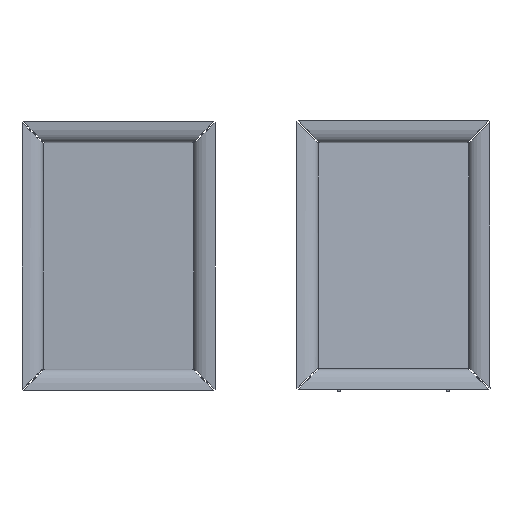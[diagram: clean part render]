
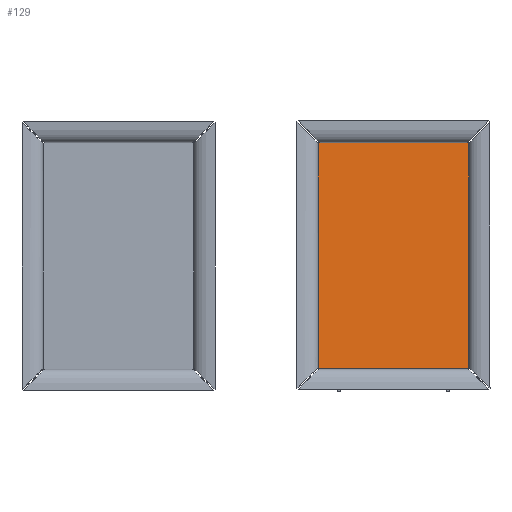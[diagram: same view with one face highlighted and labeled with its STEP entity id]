
A CAD part, front view. The second image highlights one B-rep face of the part: STEP entity #129.
In plain terms, the highlighted planar face has unit normal (0, -0.998, 0.07).
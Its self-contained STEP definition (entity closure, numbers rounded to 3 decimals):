
#129=ADVANCED_FACE('',(#316),#2795,.T.);
#316=FACE_OUTER_BOUND('',#505,.T.);
#505=EDGE_LOOP('',(#1004,#1005,#1006,#1007,#1008,#1009,#1010,#1011));
#1004=ORIENTED_EDGE('',*,*,#1701,.F.);
#1005=ORIENTED_EDGE('',*,*,#1694,.F.);
#1006=ORIENTED_EDGE('',*,*,#1700,.F.);
#1007=ORIENTED_EDGE('',*,*,#1693,.F.);
#1008=ORIENTED_EDGE('',*,*,#1699,.F.);
#1009=ORIENTED_EDGE('',*,*,#1685,.F.);
#1010=ORIENTED_EDGE('',*,*,#1687,.F.);
#1011=ORIENTED_EDGE('',*,*,#1695,.F.);
#1685=EDGE_CURVE('',#2494,#2507,#2126,.T.);
#1687=EDGE_CURVE('',#2495,#2494,#2128,.T.);
#1693=EDGE_CURVE('',#2502,#2501,#2134,.T.);
#1694=EDGE_CURVE('',#2504,#2503,#2135,.T.);
#1695=EDGE_CURVE('',#2505,#2495,#2136,.T.);
#1699=EDGE_CURVE('',#2507,#2502,#2140,.T.);
#1700=EDGE_CURVE('',#2501,#2504,#2141,.T.);
#1701=EDGE_CURVE('',#2503,#2505,#2142,.T.);
#2126=B_SPLINE_CURVE_WITH_KNOTS('',1,(#4420,#4421),.UNSPECIFIED.,.F.,.F.,
(2,2),(0.85,162.95),.UNSPECIFIED.);
#2128=B_SPLINE_CURVE_WITH_KNOTS('',1,(#4424,#4425),.UNSPECIFIED.,.F.,.F.,
(2,2),(-1.,0.),.UNSPECIFIED.);
#2134=B_SPLINE_CURVE_WITH_KNOTS('',1,(#4440,#4441),.UNSPECIFIED.,.F.,.F.,
(2,2),(0.85,107.95),.UNSPECIFIED.);
#2135=B_SPLINE_CURVE_WITH_KNOTS('',1,(#4442,#4443),.UNSPECIFIED.,.F.,.F.,
(2,2),(0.85,162.95),.UNSPECIFIED.);
#2136=B_SPLINE_CURVE_WITH_KNOTS('',1,(#4444,#4445),.UNSPECIFIED.,.F.,.F.,
(2,2),(0.85,107.95),.UNSPECIFIED.);
#2140=B_SPLINE_CURVE_WITH_KNOTS('',1,(#4452,#4453),.UNSPECIFIED.,.F.,.F.,
(2,2),(0.,1.),.UNSPECIFIED.);
#2141=B_SPLINE_CURVE_WITH_KNOTS('',1,(#4454,#4455),.UNSPECIFIED.,.F.,.F.,
(2,2),(0.,1.),.UNSPECIFIED.);
#2142=B_SPLINE_CURVE_WITH_KNOTS('',1,(#4456,#4457),.UNSPECIFIED.,.F.,.F.,
(2,2),(0.,1.),.UNSPECIFIED.);
#2494=VERTEX_POINT('',#4404);
#2495=VERTEX_POINT('',#4405);
#2501=VERTEX_POINT('',#4411);
#2502=VERTEX_POINT('',#4412);
#2503=VERTEX_POINT('',#4413);
#2504=VERTEX_POINT('',#4414);
#2505=VERTEX_POINT('',#4415);
#2507=VERTEX_POINT('',#4417);
#2795=PLANE('',#2977);
#2977=AXIS2_PLACEMENT_3D('',#4366,#3065,$);
#3065=DIRECTION('',(0.,-0.998,0.07));
#4366=CARTESIAN_POINT('',(1985.08,-193.677,148.441));
#4404=CARTESIAN_POINT('',(1985.08,-193.084,156.92));
#4405=CARTESIAN_POINT('',(1993.58,-193.677,148.441));
#4411=CARTESIAN_POINT('',(3064.58,-79.416,1782.451));
#4412=CARTESIAN_POINT('',(1993.58,-79.416,1782.451));
#4413=CARTESIAN_POINT('',(3073.08,-193.084,156.92));
#4414=CARTESIAN_POINT('',(3073.08,-80.009,1773.971));
#4415=CARTESIAN_POINT('',(3064.58,-193.677,148.441));
#4417=CARTESIAN_POINT('',(1985.08,-80.009,1773.971));
#4420=CARTESIAN_POINT('',(1985.08,-193.084,156.92));
#4421=CARTESIAN_POINT('',(1985.08,-80.009,1773.971));
#4424=CARTESIAN_POINT('',(1993.58,-193.677,148.441));
#4425=CARTESIAN_POINT('',(1985.08,-193.084,156.92));
#4440=CARTESIAN_POINT('',(1993.58,-79.416,1782.451));
#4441=CARTESIAN_POINT('',(3064.58,-79.416,1782.451));
#4442=CARTESIAN_POINT('',(3073.08,-80.009,1773.971));
#4443=CARTESIAN_POINT('',(3073.08,-193.084,156.92));
#4444=CARTESIAN_POINT('',(3064.58,-193.677,148.441));
#4445=CARTESIAN_POINT('',(1993.58,-193.677,148.441));
#4452=CARTESIAN_POINT('',(1985.08,-80.009,1773.971));
#4453=CARTESIAN_POINT('',(1993.58,-79.416,1782.451));
#4454=CARTESIAN_POINT('',(3064.58,-79.416,1782.451));
#4455=CARTESIAN_POINT('',(3073.08,-80.009,1773.971));
#4456=CARTESIAN_POINT('',(3073.08,-193.084,156.92));
#4457=CARTESIAN_POINT('',(3064.58,-193.677,148.441));
